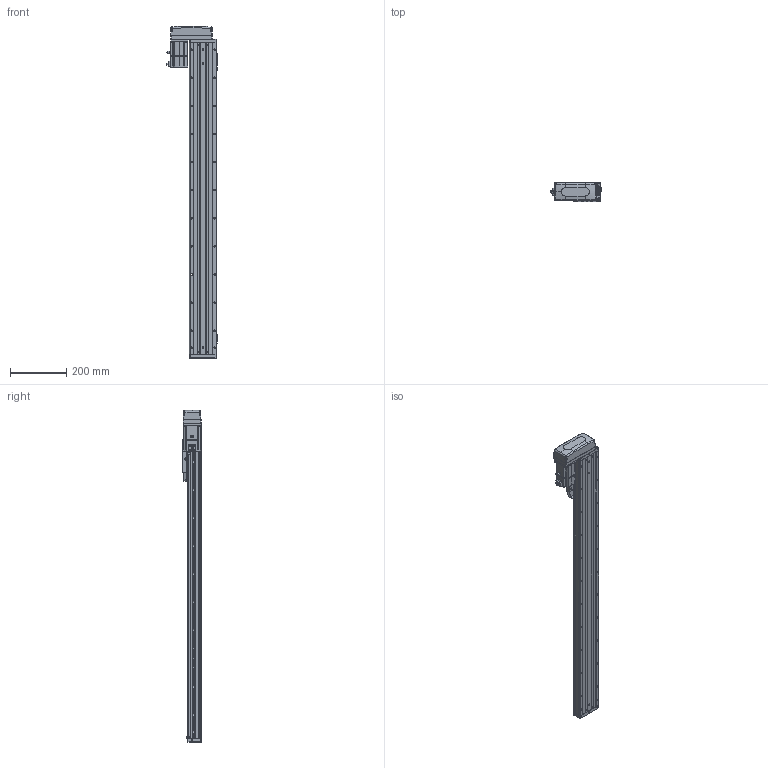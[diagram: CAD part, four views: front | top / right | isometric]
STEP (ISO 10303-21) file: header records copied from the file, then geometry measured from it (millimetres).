
FILE_DESCRIPTION (( 'STEP AP203' ), '1' );
FILE_NAME ('CTHA100-900-BL-M20-C4L.step', '2022-07-06T09:10:26', ( '微软用户' ), ( '微软中国' ), 'SwSTEP 2.0', 'SolidWorks 2020', '' );
FILE_SCHEMA (( 'CONFIG_CONTROL_DESIGN' ));
Length unit declared in the file: millimetre
Products named in the file (19): CTHA60-017; CTHA100-002; CTHA60-021; CTHA100-031; KTHA100-001_1110; GBT77-2000 M3×3; CTHA86-030; KTHA100-004; GBT 70.1-M3℅6; GBT 70.3-M3℅6; KTHA100-005; GBT70.1 M5℅16; CTHA86-015-1_CTHA86-015-2; GB¨uT 70.2-M3¡Á5_M3¡Á6; CTHA60-016; CTHA86-033; EE_SX911P_R; _X2_4E0983F1_X0_200W_1; CTHA100-900-BL-M20-C4L
Assembly tree (64 placements, depth 2):
  CTHA100-900-BL-M20-C4L
    KTHA100-001_1110
    KTHA100-004
    KTHA100-005
    GB¨uT 70.2-M3¡Á5_M3¡Á6  x10
    EE_SX911P_R  x3
    CTHA60-017  x3
    CTHA60-021  x2
    GBT77-2000 M3×3  x6
    GBT 70.1-M3℅6  x10
    GBT70.1 M5℅16  x14
    CTHA60-016  x2
    _X2_4E0983F1_X0_200W_1
    CTHA100-002
    CTHA100-031
    CTHA86-030  x2
    GBT 70.3-M3℅6  x4
    CTHA86-015-1_CTHA86-015-2
    CTHA86-033
Bounding box: 178.52 x 68 x 1181 mm (x, y, z)
Volume: 4747044.2 mm3; surface area: 788363.2 mm2
Topology: 66 solids, 66 shells, 2749 faces, 6639 edges, 4120 vertices
Faces by surface type: plane 1440, cylinder 725, cone 361, torus 124, bspline 75, sphere 24
Entity records: 48576 total; most frequent: CARTESIAN_POINT 9483, DIRECTION 7534, ORIENTED_EDGE 7394, EDGE_CURVE 3697, AXIS2_PLACEMENT_3D 2543, LINE 2448, VECTOR 2448, VERTEX_POINT 2340
